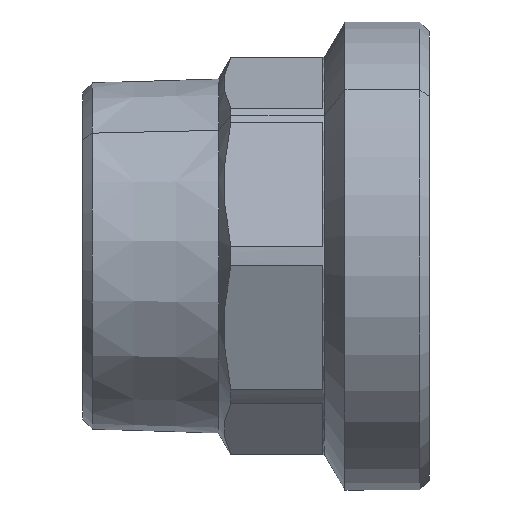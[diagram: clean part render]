
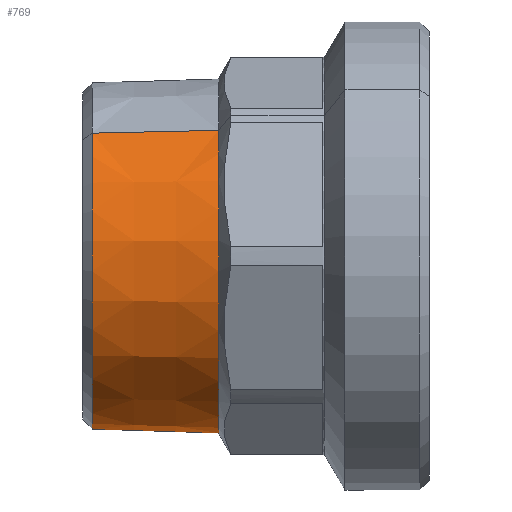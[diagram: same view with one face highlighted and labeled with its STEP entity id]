
A CAD part, front view. The second image highlights one B-rep face of the part: STEP entity #769.
In plain terms, the highlighted conical face has half-angle 1.79 degrees and reference radius 37.498 mm.
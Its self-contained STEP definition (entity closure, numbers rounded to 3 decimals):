
#185=CARTESIAN_POINT('',(-8.,37.951,0.0));
#186=VERTEX_POINT('',#185);
#298=CARTESIAN_POINT('',(-8.,-37.951,0.));
#299=VERTEX_POINT('',#298);
#306=CARTESIAN_POINT('',(-8.,0.,0.0));
#307=DIRECTION('',(1.0,0.0,0.0));
#308=DIRECTION('',(0.0,1.0,0.0));
#309=AXIS2_PLACEMENT_3D('',#306,#307,#308);
#310=CIRCLE('',#309,37.951);
#311=EDGE_CURVE('',#299,#186,#310,.T.);
#738=CARTESIAN_POINT('',(-22.5,0.,0.0));
#739=DIRECTION('',(1.0,0.,0.0));
#740=DIRECTION('',(0.0,1.0,0.0));
#741=AXIS2_PLACEMENT_3D('',#738,#739,#740);
#742=CONICAL_SURFACE('',#741,37.498,1.79);
#743=CARTESIAN_POINT('',(-35.001,37.108,0.));
#744=VERTEX_POINT('',#743);
#745=CARTESIAN_POINT('',(-8.,37.951,0.0));
#746=DIRECTION('',(-1.,-0.031,0.));
#747=VECTOR('',#746,27.014);
#748=LINE('',#745,#747);
#749=EDGE_CURVE('',#186,#744,#748,.T.);
#750=ORIENTED_EDGE('',*,*,#749,.F.);
#751=ORIENTED_EDGE('',*,*,#311,.F.);
#752=CARTESIAN_POINT('',(-35.001,-37.108,0.));
#753=VERTEX_POINT('',#752);
#754=CARTESIAN_POINT('',(-8.,-37.951,0.));
#755=DIRECTION('',(-1.,0.031,0.));
#756=VECTOR('',#755,27.014);
#757=LINE('',#754,#756);
#758=EDGE_CURVE('',#299,#753,#757,.T.);
#759=ORIENTED_EDGE('',*,*,#758,.T.);
#760=CARTESIAN_POINT('',(-35.001,0.0,0.));
#761=DIRECTION('',(-1.0,0.0,0.0));
#762=DIRECTION('',(0.0,-1.0,0.0));
#763=AXIS2_PLACEMENT_3D('',#760,#761,#762);
#764=CIRCLE('',#763,37.108);
#765=EDGE_CURVE('',#744,#753,#764,.T.);
#766=ORIENTED_EDGE('',*,*,#765,.F.);
#767=EDGE_LOOP('',(#750,#751,#759,#766));
#768=FACE_OUTER_BOUND('',#767,.T.);
#769=ADVANCED_FACE('',(#768),#742,.T.);
